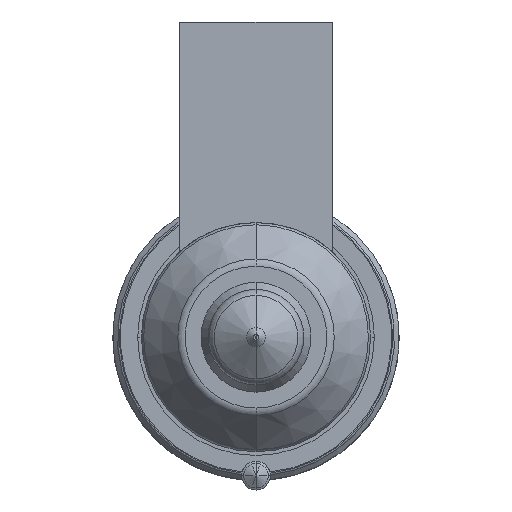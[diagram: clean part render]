
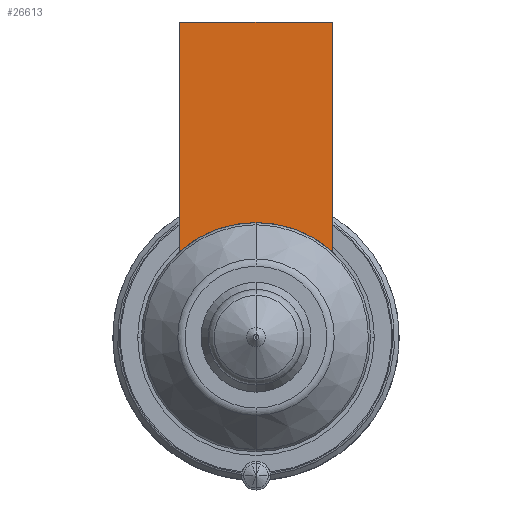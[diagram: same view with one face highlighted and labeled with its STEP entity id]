
A CAD part, front view. The second image highlights one B-rep face of the part: STEP entity #26613.
In plain terms, the highlighted planar face has unit normal (0, -1, 0).
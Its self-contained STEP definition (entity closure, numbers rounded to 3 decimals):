
#25765=DIRECTION('',(0.,0.,-1.));
#25766=VECTOR('',#25765,24.056);
#25767=CARTESIAN_POINT('',(-8.,-56.,33.));
#25768=LINE('',#25767,#25766);
#25805=DIRECTION('',(1.,0.,0.));
#25806=VECTOR('',#25805,16.);
#25807=CARTESIAN_POINT('',(-8.,-56.,33.));
#25808=LINE('',#25807,#25806);
#25812=CARTESIAN_POINT('',(0.,-56.,0.));
#25813=DIRECTION('',(0.,-1.,0.));
#25814=DIRECTION('',(0.667,0.,0.745));
#25815=AXIS2_PLACEMENT_3D('',#25812,#25813,#25814);
#25820=CARTESIAN_POINT('',(0.,-56.,0.));
#25821=DIRECTION('',(0.,-1.,0.));
#25822=DIRECTION('',(0.,0.,1.));
#25823=AXIS2_PLACEMENT_3D('',#25820,#25821,#25822);
#25856=DIRECTION('',(0.,0.,-1.));
#25857=VECTOR('',#25856,24.056);
#25858=CARTESIAN_POINT('',(8.,-56.,33.));
#25859=LINE('',#25858,#25857);
#26457=CARTESIAN_POINT('',(-8.,-56.,33.));
#26458=VERTEX_POINT('',#26457);
#26463=CARTESIAN_POINT('',(8.,-56.,33.));
#26464=VERTEX_POINT('',#26463);
#26467=CARTESIAN_POINT('',(-8.,-56.,8.944));
#26468=VERTEX_POINT('',#26467);
#26471=CARTESIAN_POINT('',(8.,-56.,8.944));
#26472=VERTEX_POINT('',#26471);
#26532=CARTESIAN_POINT('',(0.,-56.,12.));
#26533=VERTEX_POINT('',#26532);
#26598=CARTESIAN_POINT('',(-8.,-56.,33.));
#26599=DIRECTION('',(0.,-1.,0.));
#26600=DIRECTION('',(0.,0.,-1.));
#26601=AXIS2_PLACEMENT_3D('',#26598,#26599,#26600);
#26602=PLANE('',#26601);
#26603=ORIENTED_EDGE('',*,*,#26546,.F.);
#26605=ORIENTED_EDGE('',*,*,#26604,.T.);
#26607=ORIENTED_EDGE('',*,*,#26606,.T.);
#26609=ORIENTED_EDGE('',*,*,#26608,.T.);
#26610=ORIENTED_EDGE('',*,*,#26578,.T.);
#26611=EDGE_LOOP('',(#26603,#26605,#26607,#26609,#26610));
#26612=FACE_OUTER_BOUND('',#26611,.F.);
#26613=ADVANCED_FACE('',(#26612),#26602,.T.);
#25816=CIRCLE('',#25815,12.);
#25824=CIRCLE('',#25823,12.);
#26546=EDGE_CURVE('',#26458,#26468,#25768,.T.);
#26578=EDGE_CURVE('',#26533,#26468,#25824,.T.);
#26604=EDGE_CURVE('',#26458,#26464,#25808,.T.);
#26606=EDGE_CURVE('',#26464,#26472,#25859,.T.);
#26608=EDGE_CURVE('',#26472,#26533,#25816,.T.);
